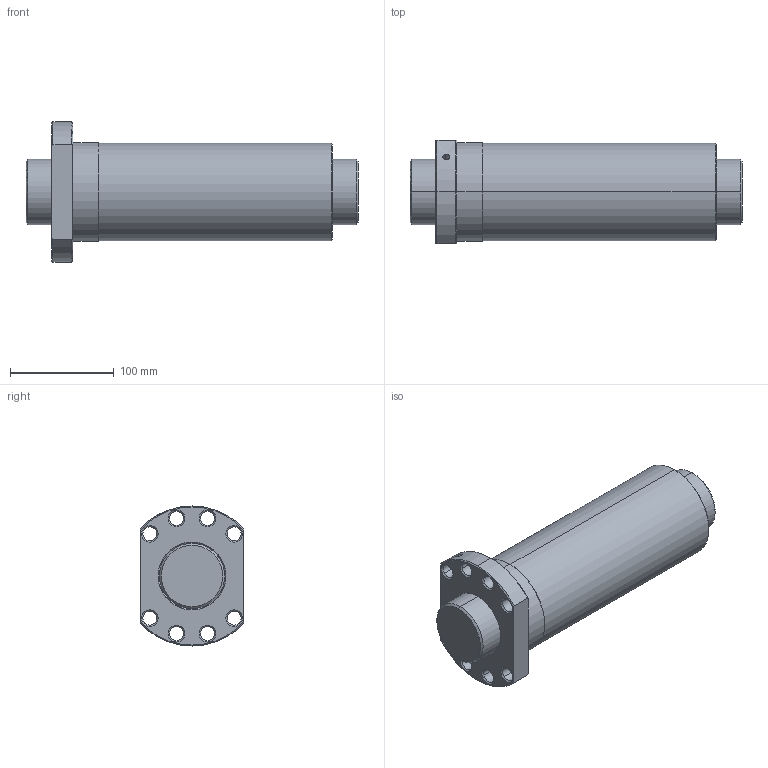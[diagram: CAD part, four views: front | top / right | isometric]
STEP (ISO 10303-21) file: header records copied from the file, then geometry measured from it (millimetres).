
FILE_DESCRIPTION(('no description'),'unknown implementation level');
FILE_NAME('R63_20T4_DDB_320_320_0_023_66.stp',' ',('HIWIN GmbH'),('CADClick - KiM GmbH - www.kimweb.de'),'unknown preprocess','ACIS','unknown authorization');
FILE_SCHEMA(('CONFIG_CONTROL_DESIGN'));
Length unit declared in the file: millimetre
Products named in the file (2): 1; 2
Bounding box: 320 x 100 x 135 mm (x, y, z)
Volume: 2111646.7 mm3; surface area: 226337.1 mm2
Topology: 2 solids, 2 shells, 90 faces, 204 edges, 119 vertices
Faces by surface type: cone 52, cylinder 30, plane 8
Entity records: 2677 total; most frequent: CARTESIAN_POINT 496, DIRECTION 484, ORIENTED_EDGE 404, EDGE_CURVE 202, AXIS2_PLACEMENT_3D 200, VERTEX_POINT 119, EDGE_LOOP 111, CIRCLE 108
